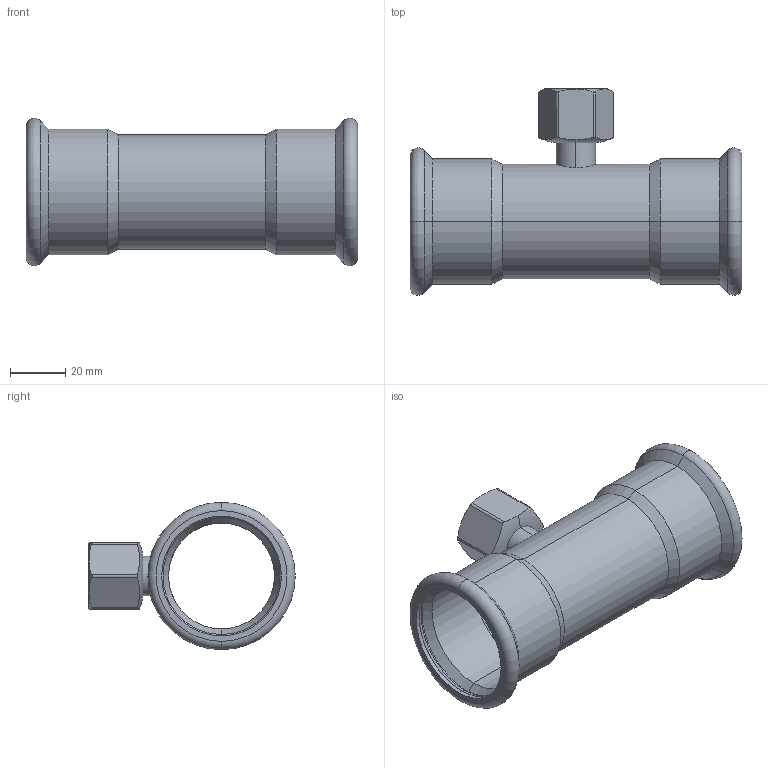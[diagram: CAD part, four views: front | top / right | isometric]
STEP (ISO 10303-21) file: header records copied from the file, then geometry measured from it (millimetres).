
FILE_DESCRIPTION (( 'STEP AP214' ), '1' );
FILE_NAME ('T42150F.STEP', '2025-08-17T14:02:06', ( '' ), ( '' ), 'SwSTEP 2.0', 'SolidWorks 2020', '' );
FILE_SCHEMA (( 'AUTOMOTIVE_DESIGN' ));
Length unit declared in the file: millimetre
Products named in the file (1): T42150F
Bounding box: 120 x 74.65 x 53.29 mm (x, y, z)
Volume: 31122.9 mm3; surface area: 41547.6 mm2
Topology: 3 solids, 3 shells, 104 faces, 249 edges, 150 vertices
Faces by surface type: cylinder 51, torus 20, cone 18, plane 12, bspline 3
Entity records: 6369 total; most frequent: CARTESIAN_POINT 2918, ORIENTED_EDGE 498, DIRECTION 454, EDGE_CURVE 249, AXIS2_PLACEMENT_3D 188, VERTEX_POINT 150, EDGE_LOOP 111, UNCERTAINTY_MEASURE_WITH_UNIT 109
